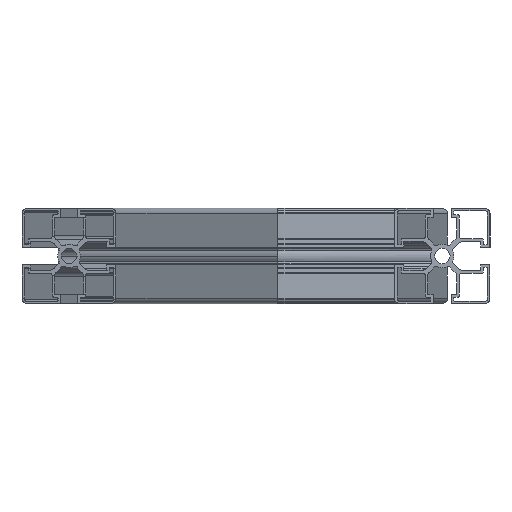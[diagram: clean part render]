
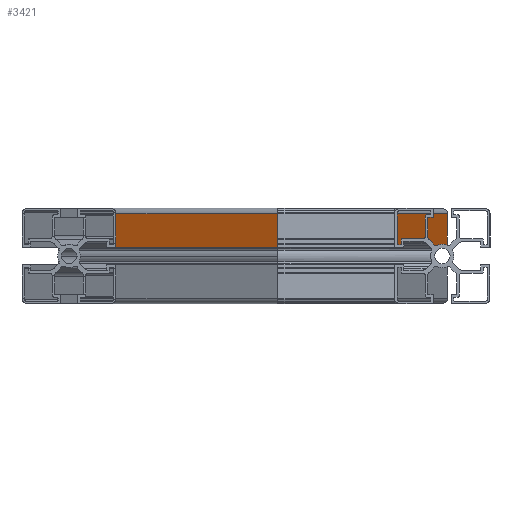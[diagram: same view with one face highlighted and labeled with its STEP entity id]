
A CAD part, left-side view. The second image highlights one B-rep face of the part: STEP entity #3421.
In plain terms, the highlighted planar face has unit normal (-0.174, -0.985, 0).
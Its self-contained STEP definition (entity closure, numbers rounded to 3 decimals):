
#1484 = EDGE_CURVE ( 'NONE', #2086, #2223, #5070, .T. ) ;
#1487 = EDGE_CURVE ( 'NONE', #2271, #2179, #5071, .T. ) ;
#1488 = EDGE_CURVE ( 'NONE', #2223, #2179, #5072, .T. ) ;
#1489 = EDGE_CURVE ( 'NONE', #2086, #2271, #5073, .T. ) ;
#1855 = ORIENTED_EDGE ( 'NONE', *, *, #1488, .T. ) ;
#1857 = ORIENTED_EDGE ( 'NONE', *, *, #1489, .F. ) ;
#1858 = ORIENTED_EDGE ( 'NONE', *, *, #1487, .F. ) ;
#1860 = ORIENTED_EDGE ( 'NONE', *, *, #1484, .T. ) ;
#2086 = VERTEX_POINT ( 'NONE', #7589 ) ;
#2179 = VERTEX_POINT ( 'NONE', #7682 ) ;
#2223 = VERTEX_POINT ( 'NONE', #7726 ) ;
#2271 = VERTEX_POINT ( 'NONE', #7774 ) ;
#3421 = ADVANCED_FACE ( 'NONE', ( #5750 ), #9447, .F. ) ;
#3803 = EDGE_LOOP ( 'NONE', ( #1855, #1858, #1857, #1860 ) ) ;
#5070 = LINE ( 'NONE', #6678, #12482 ) ;
#5071 = LINE ( 'NONE', #6686, #12485 ) ;
#5072 = LINE ( 'NONE', #6688, #12486 ) ;
#5073 = LINE ( 'NONE', #6690, #12487 ) ;
#5750 = FACE_OUTER_BOUND ( 'NONE', #3803, .T. ) ;
#6678 = CARTESIAN_POINT ( 'NONE',  ( 937., -2.38, 20. ) ) ;
#6679 = DIRECTION ( 'NONE',  ( -0.985, 0.174, 0. ) ) ;
#6686 = CARTESIAN_POINT ( 'NONE',  ( 937., -2.38, 4.151 ) ) ;
#6687 = DIRECTION ( 'NONE',  ( -0.985, 0.174, 0. ) ) ;
#6688 = CARTESIAN_POINT ( 'NONE',  ( 50.673, 153.903, 20. ) ) ;
#6689 = DIRECTION ( 'NONE',  ( 0., 0., -1. ) ) ;
#6690 = CARTESIAN_POINT ( 'NONE',  ( 937., -2.38, 20. ) ) ;
#6691 = DIRECTION ( 'NONE',  ( 0., 0., -1. ) ) ;
#7589 = CARTESIAN_POINT ( 'NONE',  ( 937., -2.38, 20. ) ) ;
#7682 = CARTESIAN_POINT ( 'NONE',  ( 50.673, 153.903, 4.151 ) ) ;
#7726 = CARTESIAN_POINT ( 'NONE',  ( 50.673, 153.903, 20. ) ) ;
#7774 = CARTESIAN_POINT ( 'NONE',  ( 937., -2.38, 4.151 ) ) ;
#9447 = PLANE ( 'NONE',  #13426 ) ;
#9448 = CARTESIAN_POINT ( 'NONE',  ( 937., -2.38, 20. ) ) ;
#9449 = DIRECTION ( 'NONE',  ( 0.174, 0.985, 0. ) ) ;
#9450 = DIRECTION ( 'NONE',  ( -0.985, 0.174, 0. ) ) ;
#12482 = VECTOR ( 'NONE', #6679, 1000. ) ;
#12485 = VECTOR ( 'NONE', #6687, 1000. ) ;
#12486 = VECTOR ( 'NONE', #6689, 1000. ) ;
#12487 = VECTOR ( 'NONE', #6691, 1000. ) ;
#13426 = AXIS2_PLACEMENT_3D ( 'NONE', #9448, #9449, #9450 ) ;
